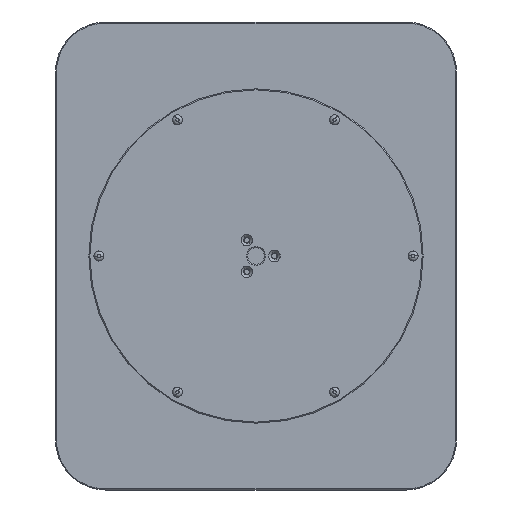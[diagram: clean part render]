
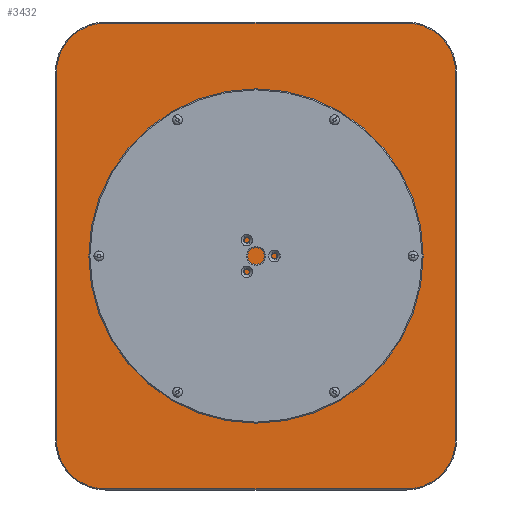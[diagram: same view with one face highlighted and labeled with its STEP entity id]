
A CAD part, front view. The second image highlights one B-rep face of the part: STEP entity #3432.
In plain terms, the highlighted planar face has unit normal (0, -1, 0).
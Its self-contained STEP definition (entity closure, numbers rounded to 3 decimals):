
#20 = EDGE_CURVE ( 'NONE', #351, #3991, #29, .T. ) ;
#27 = DIRECTION ( 'NONE',  ( 0., 1., 0. ) ) ;
#29 = LINE ( 'NONE', #3211, #1368 ) ;
#31 = AXIS2_PLACEMENT_3D ( 'NONE', #4210, #2937, #4505 ) ;
#187 = CIRCLE ( 'NONE', #2638, 73.5 ) ;
#206 = ORIENTED_EDGE ( 'NONE', *, *, #3669, .T. ) ;
#241 = CARTESIAN_POINT ( 'NONE',  ( -151.674, 0., 151.674 ) ) ;
#289 = EDGE_CURVE ( 'NONE', #3433, #4829, #2933, .T. ) ;
#306 = CARTESIAN_POINT ( 'NONE',  ( 225., 0., 348.5 ) ) ;
#312 = VERTEX_POINT ( 'NONE', #745 ) ;
#347 = CARTESIAN_POINT ( 'NONE',  ( 225., 0., -348.5 ) ) ;
#348 = DIRECTION ( 'NONE',  ( 0., 0., -1. ) ) ;
#351 = VERTEX_POINT ( 'NONE', #1499 ) ;
#352 = AXIS2_PLACEMENT_3D ( 'NONE', #2272, #2705, #3934 ) ;
#697 = EDGE_LOOP ( 'NONE', ( #2057, #3083, #2521, #2561, #4464, #206, #3727, #2885 ) ) ;
#729 = PLANE ( 'NONE',  #352 ) ;
#745 = CARTESIAN_POINT ( 'NONE',  ( -151.674, 0., 147.174 ) ) ;
#780 = EDGE_CURVE ( 'NONE', #1864, #2756, #3231, .T. ) ;
#829 = CIRCLE ( 'NONE', #5057, 73.5 ) ;
#861 = VECTOR ( 'NONE', #3389, 1000. ) ;
#904 = VECTOR ( 'NONE', #1494, 1000. ) ;
#941 = ORIENTED_EDGE ( 'NONE', *, *, #5254, .T. ) ;
#996 = ORIENTED_EDGE ( 'NONE', *, *, #2657, .T. ) ;
#1001 = DIRECTION ( 'NONE',  ( 0., 1., 0. ) ) ;
#1046 = VERTEX_POINT ( 'NONE', #2269 ) ;
#1073 = CARTESIAN_POINT ( 'NONE',  ( -151.674, 0., -151.674 ) ) ;
#1084 = DIRECTION ( 'NONE',  ( 0., 1., 0. ) ) ;
#1096 = FACE_OUTER_BOUND ( 'NONE', #697, .T. ) ;
#1109 = CARTESIAN_POINT ( 'NONE',  ( -151.674, 0., -151.674 ) ) ;
#1130 = FACE_BOUND ( 'NONE', #3938, .T. ) ;
#1146 = EDGE_LOOP ( 'NONE', ( #996, #1775 ) ) ;
#1164 = DIRECTION ( 'NONE',  ( 0., 1., 0. ) ) ;
#1195 = DIRECTION ( 'NONE',  ( 0., 0., -1. ) ) ;
#1199 = AXIS2_PLACEMENT_3D ( 'NONE', #1073, #2684, #3958 ) ;
#1217 = VERTEX_POINT ( 'NONE', #1422 ) ;
#1220 = AXIS2_PLACEMENT_3D ( 'NONE', #5176, #4342, #3521 ) ;
#1224 = AXIS2_PLACEMENT_3D ( 'NONE', #1109, #3199, #5249 ) ;
#1293 = AXIS2_PLACEMENT_3D ( 'NONE', #3234, #27, #348 ) ;
#1332 = EDGE_CURVE ( 'NONE', #4829, #1674, #2065, .T. ) ;
#1368 = VECTOR ( 'NONE', #2883, 1000. ) ;
#1416 = CARTESIAN_POINT ( 'NONE',  ( -151.674, 0., 156.174 ) ) ;
#1422 = CARTESIAN_POINT ( 'NONE',  ( 298.5, 0., 275. ) ) ;
#1435 = CARTESIAN_POINT ( 'NONE',  ( 151.674, 0., -147.174 ) ) ;
#1455 = CARTESIAN_POINT ( 'NONE',  ( 151.674, 0., 151.674 ) ) ;
#1488 = CIRCLE ( 'NONE', #31, 73.5 ) ;
#1494 = DIRECTION ( 'NONE',  ( 0., 0., 1. ) ) ;
#1499 = CARTESIAN_POINT ( 'NONE',  ( -225., 0., -348.5 ) ) ;
#1514 = AXIS2_PLACEMENT_3D ( 'NONE', #5056, #1001, #5000 ) ;
#1545 = VERTEX_POINT ( 'NONE', #2611 ) ;
#1564 = CARTESIAN_POINT ( 'NONE',  ( 298.5, 0., -275. ) ) ;
#1602 = CARTESIAN_POINT ( 'NONE',  ( -225., 0., -275. ) ) ;
#1660 = CARTESIAN_POINT ( 'NONE',  ( 151.674, 0., -156.174 ) ) ;
#1674 = VERTEX_POINT ( 'NONE', #3943 ) ;
#1691 = EDGE_CURVE ( 'NONE', #1545, #2782, #5119, .T. ) ;
#1739 = CIRCLE ( 'NONE', #4435, 4.5 ) ;
#1775 = ORIENTED_EDGE ( 'NONE', *, *, #3974, .T. ) ;
#1821 = ORIENTED_EDGE ( 'NONE', *, *, #4655, .T. ) ;
#1864 = VERTEX_POINT ( 'NONE', #2036 ) ;
#1882 = CARTESIAN_POINT ( 'NONE',  ( -151.674, 0., 151.674 ) ) ;
#1897 = LINE ( 'NONE', #1948, #2118 ) ;
#1940 = DIRECTION ( 'NONE',  ( 0., -1., 0. ) ) ;
#1947 = DIRECTION ( 'NONE',  ( 0., 1., 0. ) ) ;
#1948 = CARTESIAN_POINT ( 'NONE',  ( -298.5, 0., -275. ) ) ;
#2036 = CARTESIAN_POINT ( 'NONE',  ( 151.674, 0., 147.174 ) ) ;
#2057 = ORIENTED_EDGE ( 'NONE', *, *, #289, .T. ) ;
#2065 = CIRCLE ( 'NONE', #1220, 73.5 ) ;
#2118 = VECTOR ( 'NONE', #2273, 1000. ) ;
#2269 = CARTESIAN_POINT ( 'NONE',  ( -298.5, 0., -275. ) ) ;
#2272 = CARTESIAN_POINT ( 'NONE',  ( 0., 0., 0. ) ) ;
#2273 = DIRECTION ( 'NONE',  ( 0., 0., -1. ) ) ;
#2290 = DIRECTION ( 'NONE',  ( 0., 0., -1. ) ) ;
#2521 = ORIENTED_EDGE ( 'NONE', *, *, #4796, .T. ) ;
#2561 = ORIENTED_EDGE ( 'NONE', *, *, #2869, .T. ) ;
#2611 = CARTESIAN_POINT ( 'NONE',  ( -151.674, 0., -147.174 ) ) ;
#2638 = AXIS2_PLACEMENT_3D ( 'NONE', #4718, #1940, #2290 ) ;
#2657 = EDGE_CURVE ( 'NONE', #312, #4139, #4250, .T. ) ;
#2684 = DIRECTION ( 'NONE',  ( 0., 1., 0. ) ) ;
#2705 = DIRECTION ( 'NONE',  ( 0., -1., 0. ) ) ;
#2749 = DIRECTION ( 'NONE',  ( 0., 0., -1. ) ) ;
#2756 = VERTEX_POINT ( 'NONE', #3096 ) ;
#2782 = VERTEX_POINT ( 'NONE', #4125 ) ;
#2811 = DIRECTION ( 'NONE',  ( 0., 0., -1. ) ) ;
#2827 = CARTESIAN_POINT ( 'NONE',  ( 151.674, 0., 151.674 ) ) ;
#2869 = EDGE_CURVE ( 'NONE', #1046, #351, #829, .T. ) ;
#2883 = DIRECTION ( 'NONE',  ( 1., 0., 0. ) ) ;
#2885 = ORIENTED_EDGE ( 'NONE', *, *, #5147, .T. ) ;
#2933 = LINE ( 'NONE', #4551, #861 ) ;
#2937 = DIRECTION ( 'NONE',  ( 0., -1., 0. ) ) ;
#2960 = CIRCLE ( 'NONE', #3900, 4.5 ) ;
#3028 = DIRECTION ( 'NONE',  ( 0., 0., -1. ) ) ;
#3083 = ORIENTED_EDGE ( 'NONE', *, *, #1332, .T. ) ;
#3096 = CARTESIAN_POINT ( 'NONE',  ( 151.674, 0., 156.174 ) ) ;
#3131 = FACE_BOUND ( 'NONE', #3940, .T. ) ;
#3143 = CARTESIAN_POINT ( 'NONE',  ( 298.5, 0., 275. ) ) ;
#3165 = CARTESIAN_POINT ( 'NONE',  ( -225., 0., 348.5 ) ) ;
#3199 = DIRECTION ( 'NONE',  ( 0., 1., 0. ) ) ;
#3211 = CARTESIAN_POINT ( 'NONE',  ( 225., 0., -348.5 ) ) ;
#3231 = CIRCLE ( 'NONE', #3396, 4.5 ) ;
#3234 = CARTESIAN_POINT ( 'NONE',  ( 151.674, 0., -151.674 ) ) ;
#3389 = DIRECTION ( 'NONE',  ( -1., 0., 0. ) ) ;
#3396 = AXIS2_PLACEMENT_3D ( 'NONE', #2827, #1164, #4439 ) ;
#3432 = ADVANCED_FACE ( 'NONE', ( #1096, #5112, #4295, #1130, #3131 ), #729, .T. ) ;
#3433 = VERTEX_POINT ( 'NONE', #306 ) ;
#3480 = EDGE_CURVE ( 'NONE', #2782, #1545, #4922, .T. ) ;
#3499 = EDGE_CURVE ( 'NONE', #2756, #1864, #2960, .T. ) ;
#3521 = DIRECTION ( 'NONE',  ( 0., 0., -1. ) ) ;
#3544 = ORIENTED_EDGE ( 'NONE', *, *, #780, .T. ) ;
#3572 = CIRCLE ( 'NONE', #1293, 4.5 ) ;
#3669 = EDGE_CURVE ( 'NONE', #3991, #4794, #1488, .T. ) ;
#3727 = ORIENTED_EDGE ( 'NONE', *, *, #4353, .T. ) ;
#3829 = ORIENTED_EDGE ( 'NONE', *, *, #3480, .T. ) ;
#3886 = LINE ( 'NONE', #3143, #904 ) ;
#3900 = AXIS2_PLACEMENT_3D ( 'NONE', #1455, #1947, #3028 ) ;
#3934 = DIRECTION ( 'NONE',  ( 0., 0., -1. ) ) ;
#3938 = EDGE_LOOP ( 'NONE', ( #3544, #4189 ) ) ;
#3940 = EDGE_LOOP ( 'NONE', ( #3829, #5122 ) ) ;
#3943 = CARTESIAN_POINT ( 'NONE',  ( -298.5, 0., 275. ) ) ;
#3958 = DIRECTION ( 'NONE',  ( 0., 0., -1. ) ) ;
#3974 = EDGE_CURVE ( 'NONE', #4139, #312, #1739, .T. ) ;
#3991 = VERTEX_POINT ( 'NONE', #347 ) ;
#4040 = CIRCLE ( 'NONE', #1514, 4.5 ) ;
#4041 = EDGE_LOOP ( 'NONE', ( #941, #1821 ) ) ;
#4063 = VERTEX_POINT ( 'NONE', #1660 ) ;
#4125 = CARTESIAN_POINT ( 'NONE',  ( -151.674, 0., -156.174 ) ) ;
#4139 = VERTEX_POINT ( 'NONE', #1416 ) ;
#4189 = ORIENTED_EDGE ( 'NONE', *, *, #3499, .T. ) ;
#4210 = CARTESIAN_POINT ( 'NONE',  ( 225., 0., -275. ) ) ;
#4250 = CIRCLE ( 'NONE', #4669, 4.5 ) ;
#4295 = FACE_BOUND ( 'NONE', #1146, .T. ) ;
#4342 = DIRECTION ( 'NONE',  ( 0., -1., 0. ) ) ;
#4353 = EDGE_CURVE ( 'NONE', #4794, #1217, #3886, .T. ) ;
#4435 = AXIS2_PLACEMENT_3D ( 'NONE', #241, #5180, #2811 ) ;
#4439 = DIRECTION ( 'NONE',  ( 0., 0., -1. ) ) ;
#4464 = ORIENTED_EDGE ( 'NONE', *, *, #20, .T. ) ;
#4505 = DIRECTION ( 'NONE',  ( 0., 0., -1. ) ) ;
#4551 = CARTESIAN_POINT ( 'NONE',  ( -225., 0., 348.5 ) ) ;
#4655 = EDGE_CURVE ( 'NONE', #4719, #4063, #4040, .T. ) ;
#4669 = AXIS2_PLACEMENT_3D ( 'NONE', #1882, #1084, #2749 ) ;
#4718 = CARTESIAN_POINT ( 'NONE',  ( 225., 0., 275. ) ) ;
#4719 = VERTEX_POINT ( 'NONE', #1435 ) ;
#4794 = VERTEX_POINT ( 'NONE', #1564 ) ;
#4796 = EDGE_CURVE ( 'NONE', #1674, #1046, #1897, .T. ) ;
#4819 = DIRECTION ( 'NONE',  ( 0., -1., 0. ) ) ;
#4829 = VERTEX_POINT ( 'NONE', #3165 ) ;
#4922 = CIRCLE ( 'NONE', #1199, 4.5 ) ;
#5000 = DIRECTION ( 'NONE',  ( 0., 0., -1. ) ) ;
#5056 = CARTESIAN_POINT ( 'NONE',  ( 151.674, 0., -151.674 ) ) ;
#5057 = AXIS2_PLACEMENT_3D ( 'NONE', #1602, #4819, #1195 ) ;
#5112 = FACE_BOUND ( 'NONE', #4041, .T. ) ;
#5119 = CIRCLE ( 'NONE', #1224, 4.5 ) ;
#5122 = ORIENTED_EDGE ( 'NONE', *, *, #1691, .T. ) ;
#5147 = EDGE_CURVE ( 'NONE', #1217, #3433, #187, .T. ) ;
#5176 = CARTESIAN_POINT ( 'NONE',  ( -225., 0., 275. ) ) ;
#5180 = DIRECTION ( 'NONE',  ( 0., 1., 0. ) ) ;
#5249 = DIRECTION ( 'NONE',  ( 0., 0., -1. ) ) ;
#5254 = EDGE_CURVE ( 'NONE', #4063, #4719, #3572, .T. ) ;
